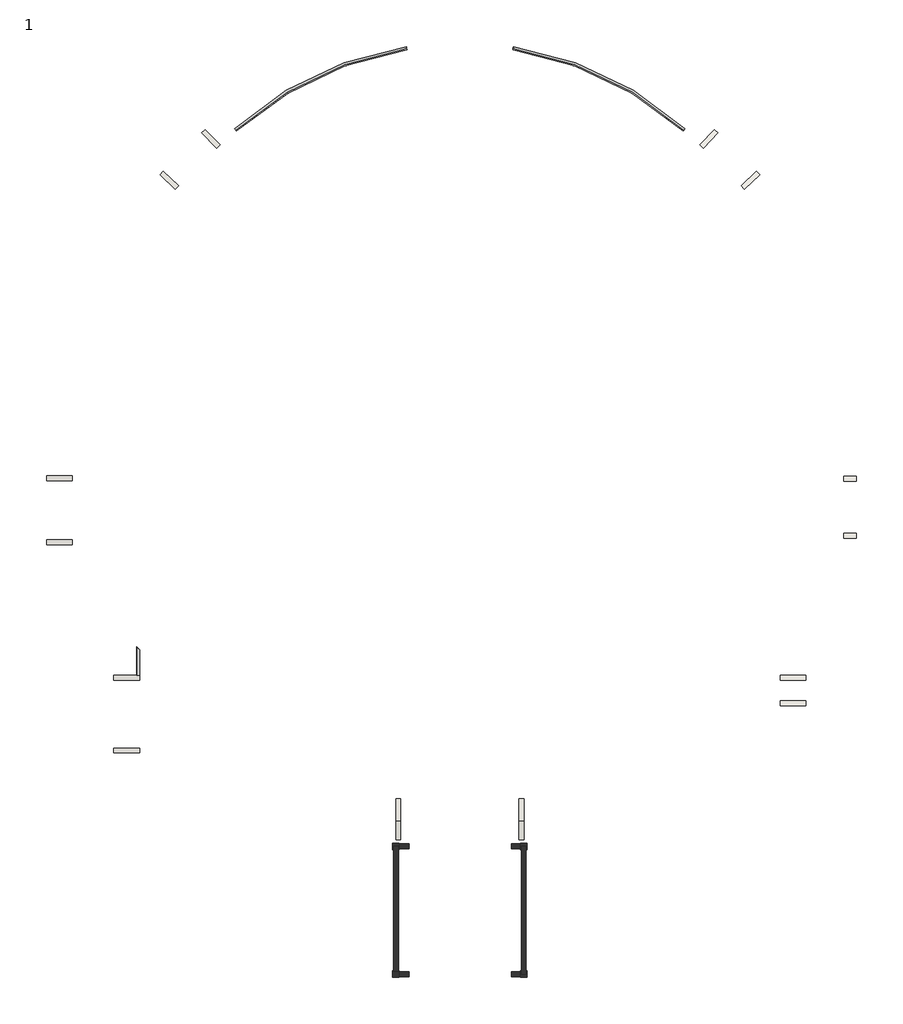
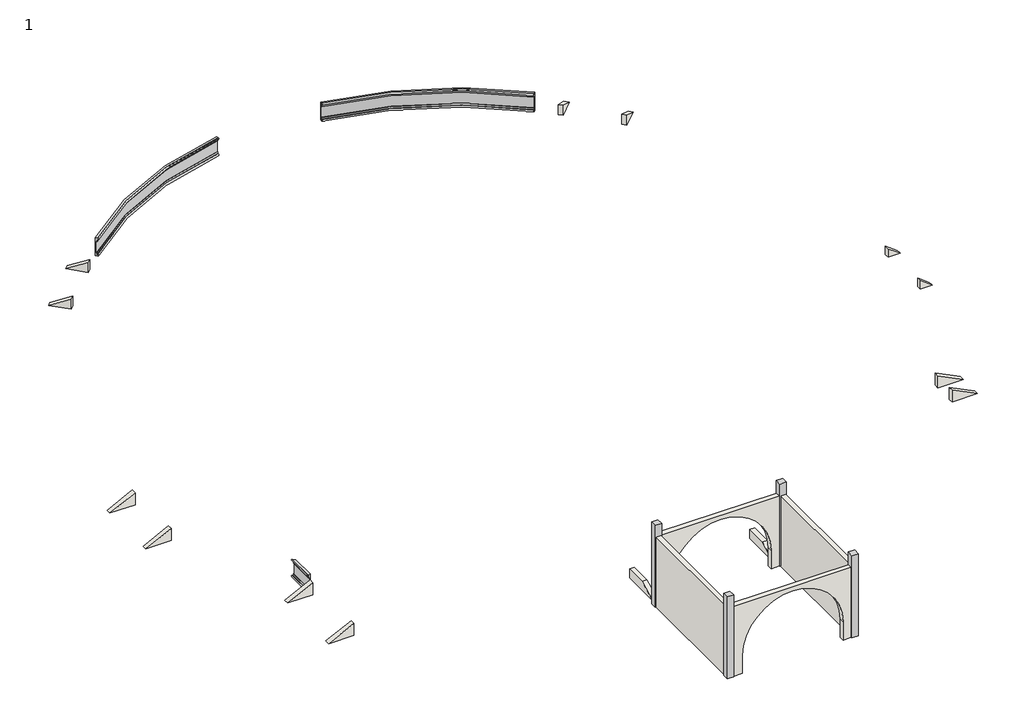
# One storey, incomplete: 19 walls, 4 columns, 2 proxies.
"""IFC4 building model written with IfcOpenShell, lengths in millimetres."""

from ifc_helpers import new_model, si_unit, point, frame, frame_2d, origin, place, context, project, spatial, polyline, circle_curve, ellipse_curve, trimmed, segment, composite_curve, outline, extrude, transform, mapped, element, save
from ifc_brep_helpers import plane_surface, cylinder_surface, revolved_surface, advanced_brep
from components import m_concrete_rectangular_column_c1_b98a9e01

model = new_model("IFC4")

# Units and contexts
model_context = context("Model", 3, world=origin())
ifc_project = project(units=[si_unit("LENGTHUNIT", "METRE", prefix="MILLI")], contexts=[model_context])

# Site, building, storey
site = spatial("IfcSite", under=ifc_project)
building = spatial("IfcBuilding", under=site)
storey = spatial("IfcBuildingStorey", under=building, Name="1", Elevation=-609.6)

# Proxies
placement = place(None, origin())
element("IfcBuildingElementProxy", 1, Name="moulding 2", ObjectType="moulding 2", at=placement, inside=storey, context=model_context, shape_type="AdvancedBrep", body=[
    advanced_brep(
    [(-23577.9608197, -8547.6193311, 304.8), (-23476.3608197, -8649.2193311, 304.8), (-23476.3608197, -8649.2193311, -609.6), (-23577.9608197, -8547.6193311, -609.6), (-23577.9608197, -8547.6193311, -527.05), (-23552.5608197, -8573.0193311, -527.05), (-23552.5608197, -8573.0193311, -438.15), (-23527.1608197, -8598.4193311, -438.15), (-23527.1608197, -8598.4193311, 127.0), (-23561.4018803, -8564.1782706, 127.0), (-23552.5608197, -8573.0193311, 222.25), (-23577.9608197, -8547.6193311, 222.25), (-23577.9608197, -9848.5681763, 304.8), (-23577.9608197, -9848.5681763, 222.25), (-23552.5608197, -9848.5681763, 222.25), (-23561.4018803, -9848.5681763, 127.0), (-23527.1608197, -9848.5681763, 127.0), (-23527.1608197, -9848.5681763, -438.15), (-23552.5608197, -9848.5681763, -438.15), (-23552.5608197, -9848.5681763, -527.05), (-23577.9608197, -9848.5681763, -527.05), (-23577.9608197, -9848.5681763, -609.6), (-23476.3608197, -9848.5681763, -609.6), (-23476.3608197, -9848.5681763, 304.8)],
    [
        (0, 1),
        (1, 2),
        (2, 3),
        (3, 4, ellipse_curve(frame((-23577.9608197, -8547.6193311, -568.325), z_axis=(0.7071067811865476, 0.7071067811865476, 0.0), x_axis=(-0.7071067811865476, 0.7071067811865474, 0.0)), 58.3716648, 41.275)),
        (4, 5),
        (5, 6, ellipse_curve(frame((-23591.1875121, -8534.3926387, -482.6), z_axis=(-0.7071067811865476, -0.7071067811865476, 0.0), x_axis=(0.7071067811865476, -0.7071067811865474, 0.0)), 83.2805363, 58.888232)),
        (6, 7),
        (7, 8),
        (8, 9),
        (9, 10, ellipse_curve(frame((-23591.1875121, -8534.3926387, 177.8), z_axis=(-0.7071067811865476, -0.7071067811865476, 0.0), x_axis=(0.7071067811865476, -0.7071067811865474, 0.0)), 83.2805363, 58.888232)),
        (10, 11),
        (11, 0, ellipse_curve(frame((-23577.9608197, -8547.6193311, 263.525), z_axis=(0.7071067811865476, 0.7071067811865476, 0.0), x_axis=(-0.7071067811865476, 0.7071067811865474, 0.0)), 58.3716648, 41.275)),
        (12, 13, circle_curve(frame((-23577.9608197, -9848.5681763, 263.525), z_axis=(0.0, -1.0, 0.0), x_axis=(-1.0, 0.0, 0.0)), 41.275)),
        (13, 14),
        (14, 15, circle_curve(frame((-23591.1875121, -9848.5681763, 177.8), z_axis=(0.0, 1.0, 0.0), x_axis=(-1.0, 0.0, 0.0)), 58.888232)),
        (15, 16),
        (16, 17),
        (17, 18),
        (18, 19, circle_curve(frame((-23591.1875121, -9848.5681763, -482.6), z_axis=(0.0, 1.0, 0.0), x_axis=(-1.0, 0.0, 0.0)), 58.888232)),
        (19, 20),
        (20, 21, circle_curve(frame((-23577.9608197, -9848.5681763, -568.325), z_axis=(0.0, -1.0, 0.0), x_axis=(-1.0, 0.0, 0.0)), 41.275)),
        (21, 22),
        (22, 23),
        (23, 12),
        (0, 12),
        (23, 1),
        (22, 2),
        (21, 3),
        (20, 4),
        (19, 5),
        (18, 6),
        (17, 7),
        (16, 8),
        (15, 9),
        (14, 10),
        (13, 11),
    ],
    [
        plane_surface(frame((-23476.3608197, -8649.2193311, -609.6), z_axis=(0.7071067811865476, 0.7071067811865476, 0.0), x_axis=(-0.7071067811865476, 0.7071067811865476, 0.0))),
        plane_surface(frame((-24396.3879498, -9848.5681763, -609.6), z_axis=(0.0, -1.0, 0.0), x_axis=(0.0, 0.0, -1.0))),
        plane_surface(frame((-23577.9608197, -8547.6193311, 304.8), z_axis=(0.0, 0.0, 1.0), x_axis=(0.0, -1.0, 0.0))),
        plane_surface(frame((-23476.3608197, -8649.2193311, 304.8), z_axis=(1.0, 0.0, 0.0), x_axis=(0.0, -1.0, 0.0))),
        plane_surface(frame((-23476.3608197, -8649.2193311, -609.6), z_axis=(0.0, 0.0, -1.0), x_axis=(0.0, -1.0, 0.0))),
        cylinder_surface(frame((-23577.9608197, -8649.2193311, -568.325), z_axis=(0.0, 1.0, 0.0), x_axis=(-1.0, 0.0, 0.0)), 41.275),
        plane_surface(frame((-23577.9608197, -8547.6193311, -527.05), z_axis=(0.0, 0.0, 1.0), x_axis=(0.0, -1.0, 0.0))),
        revolved_surface(polyline([(-23650.075744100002, -9848.5681763, -482.6), (-23650.075744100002, -8475.504406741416, -482.6)]), (-23591.1875121, -8649.2193311, -482.6), (0.0, -1.0, 0.0)),
        plane_surface(frame((-23552.5608197, -8573.0193311, -438.15), z_axis=(0.0, 0.0, 1.0), x_axis=(0.0, -1.0, 0.0))),
        plane_surface(frame((-23527.1608197, -8598.4193311, -438.15), z_axis=(-1.0, 0.0, 0.0), x_axis=(0.0, -1.0, 0.0))),
        plane_surface(frame((-23527.1608197, -8598.4193311, 127.0), z_axis=(0.0, 0.0, -1.0), x_axis=(0.0, -1.0, 0.0))),
        revolved_surface(polyline([(-23650.075744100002, -9848.5681763, 177.8), (-23650.075744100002, -8475.504406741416, 177.8)]), (-23591.1875121, -8649.2193311, 177.8), (0.0, -1.0, 0.0)),
        plane_surface(frame((-23552.5608197, -8573.0193311, 222.25), z_axis=(0.0, 0.0, -1.0), x_axis=(0.0, -1.0, 0.0))),
        cylinder_surface(frame((-23577.9608197, -8649.2193311, 263.525), z_axis=(0.0, 1.0, 0.0), x_axis=(-1.0, 0.0, 0.0)), 41.275),
    ],
    [
        (0, [[1, 2, 3, 4, 5, 6, 7, 8, 9, 10, 11, 12]]),
        (1, [[13, 14, 15, 16, 17, 18, 19, 20, 21, 22, 23, 24]]),
        (2, [[-1, 25, -24, 26]]),
        (3, [[-2, -26, -23, 27]]),
        (4, [[-3, -27, -22, 28]]),
        (5, [[-4, -28, -21, 29]]),
        (6, [[-5, -29, -20, 30]]),
        (7, [[-6, -30, -19, 31]]),
        (8, [[-7, -31, -18, 32]]),
        (9, [[-8, -32, -17, 33]]),
        (10, [[-9, -33, -16, 34]]),
        (11, [[-10, -34, -15, 35]]),
        (12, [[-11, -35, -14, 36]]),
        (13, [[-12, -36, -13, -25]]),
    ],
),
])
element("IfcBuildingElementProxy", 2, Name="moulding 2", ObjectType="moulding 2", at=placement, inside=storey, context=model_context, shape_type="AdvancedBrep", body=[
    advanced_brep(
    [(2148.3467022, 15805.0626421, 304.8), (2148.3467022, 15805.0626421, 222.25), (2165.3278666, 15823.9517939, 222.25), (2159.4171775, 15817.3769854, 127.0), (2182.309031, 15842.8409456, 127.0), (2182.309031, 15842.8409456, -438.15), (2165.3278666, 15823.9517939, -438.15), (2165.3278666, 15823.9517939, -527.05), (2148.3467022, 15805.0626421, -527.05), (2148.3467022, 15805.0626421, -609.6), (2216.2713599, 15880.6192492, -609.6), (2216.2713599, 15880.6192492, 304.8), (-5888.6839786, 19645.7260125, 304.8), (-5872.5655256, 19746.0392991, 304.8), (-5872.5655256, 19746.0392991, -609.6), (-5888.6839786, 19645.7260125, -609.6), (-5888.6839786, 19645.7260125, -527.05), (-5884.6543653, 19670.8043341, -527.05), (-5884.6543653, 19670.8043341, -438.15), (-5880.6247521, 19695.8826558, -438.15), (-5880.6247521, 19695.8826558, 127.0), (-5886.0569659, 19662.0752412, 127.0), (-5884.6543653, 19670.8043341, 222.25), (-5888.6839786, 19645.7260125, 222.25)],
    [
        (0, 1, circle_curve(frame((2148.3467022, 15805.0626421, 263.525), z_axis=(0.7436673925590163, -0.6685497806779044, 0.0), x_axis=(-0.6685497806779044, -0.7436673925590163, 0.0)), 41.275)),
        (1, 2),
        (2, 3, circle_curve(frame((2139.5039999, 15795.2263823, 177.8), z_axis=(-0.7436673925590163, 0.6685497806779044, 0.0), x_axis=(-0.6685497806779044, -0.7436673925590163, 0.0)), 58.888232)),
        (3, 4),
        (4, 5),
        (5, 6),
        (6, 7, circle_curve(frame((2139.5039999, 15795.2263823, -482.6), z_axis=(-0.7436673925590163, 0.6685497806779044, 0.0), x_axis=(-0.6685497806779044, -0.7436673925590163, 0.0)), 58.888232)),
        (7, 8),
        (8, 9, circle_curve(frame((2148.3467022, 15805.0626421, -568.325), z_axis=(0.7436673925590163, -0.6685497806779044, 0.0), x_axis=(-0.6685497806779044, -0.7436673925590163, 0.0)), 41.275)),
        (9, 10),
        (10, 11),
        (11, 0),
        (12, 13),
        (13, 14),
        (14, 15),
        (15, 16, circle_curve(frame((-5888.6839786, 19645.7260125, -568.325), z_axis=(-0.9873354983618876, 0.1586461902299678, 0.0), x_axis=(-0.1586461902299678, -0.9873354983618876, 0.0)), 41.275)),
        (16, 17),
        (17, 18, circle_curve(frame((-5890.7823429, 19632.6668296, -482.6), z_axis=(0.9873354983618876, -0.1586461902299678, 0.0), x_axis=(-0.1586461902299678, -0.9873354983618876, 0.0)), 58.888232)),
        (18, 19),
        (19, 20),
        (20, 21),
        (21, 22, circle_curve(frame((-5890.7823429, 19632.6668296, 177.8), z_axis=(0.9873354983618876, -0.1586461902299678, 0.0), x_axis=(-0.1586461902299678, -0.9873354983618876, 0.0)), 58.888232)),
        (22, 23),
        (23, 12, circle_curve(frame((-5888.6839786, 19645.7260125, 263.525), z_axis=(-0.9873354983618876, 0.1586461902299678, 0.0), x_axis=(-0.1586461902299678, -0.9873354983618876, 0.0)), 41.275)),
        (23, 1, circle_curve(frame((-8389.2435395, 4083.4788717, 222.25), z_axis=(0.0, 0.0, -1.0), x_axis=(0.6685497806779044, 0.7436673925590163, 0.0)), 15761.8632842)),
        (0, 12, circle_curve(frame((-8389.2435395, 4083.4788717, 304.8), z_axis=(0.0, 0.0, 1.0), x_axis=(0.6685497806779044, 0.7436673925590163, 0.0)), 15761.8632842)),
        (22, 2, circle_curve(frame((-8389.2435395, 4083.4788717, 222.25), z_axis=(0.0, 0.0, -1.0), x_axis=(0.6685497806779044, 0.7436673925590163, 0.0)), 15787.2632842)),
        (21, 3, circle_curve(frame((-8389.2435395, 4083.4788717, 127.0), z_axis=(0.0, 0.0, -1.0), x_axis=(0.6685497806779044, 0.7436673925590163, 0.0)), 15778.4222237)),
        (20, 4, circle_curve(frame((-8389.2435395, 4083.4788717, 127.0), z_axis=(0.0, 0.0, -1.0), x_axis=(0.6685497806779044, 0.7436673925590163, 0.0)), 15812.6632842)),
        (19, 5, circle_curve(frame((-8389.2435395, 4083.4788717, -438.15), z_axis=(0.0, 0.0, -1.0), x_axis=(0.6685497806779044, 0.7436673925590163, 0.0)), 15812.6632842)),
        (18, 6, circle_curve(frame((-8389.2435395, 4083.4788717, -438.15), z_axis=(0.0, 0.0, -1.0), x_axis=(0.6685497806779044, 0.7436673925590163, 0.0)), 15787.2632842)),
        (17, 7, circle_curve(frame((-8389.2435395, 4083.4788717, -527.05), z_axis=(0.0, 0.0, -1.0), x_axis=(0.6685497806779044, 0.7436673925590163, 0.0)), 15787.2632842)),
        (16, 8, circle_curve(frame((-8389.2435395, 4083.4788717, -527.05), z_axis=(0.0, 0.0, -1.0), x_axis=(0.6685497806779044, 0.7436673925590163, 0.0)), 15761.8632842)),
        (15, 9, circle_curve(frame((-8389.2435395, 4083.4788717, -609.6), z_axis=(0.0, 0.0, -1.0), x_axis=(0.6685497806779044, 0.7436673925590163, 0.0)), 15761.8632842)),
        (14, 10, circle_curve(frame((-8389.2435395, 4083.4788717, -609.6), z_axis=(0.0, 0.0, -1.0), x_axis=(0.6685497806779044, 0.7436673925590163, 0.0)), 15863.4632842)),
        (13, 11, circle_curve(frame((-8389.2435395, 4083.4788717, 304.8), z_axis=(0.0, 0.0, -1.0), x_axis=(0.6685497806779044, 0.7436673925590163, 0.0)), 15863.4632842)),
    ],
    [
        plane_surface(frame((-8389.2435395, 4083.4788717, -609.6), z_axis=(0.7436673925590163, -0.6685497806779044, 0.0), x_axis=(0.6685497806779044, 0.7436673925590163, 0.0))),
        plane_surface(frame((-8389.2435395, 4083.4788717, -609.6), z_axis=(-0.9873354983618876, 0.1586461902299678, 0.0), x_axis=(0.1586461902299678, 0.9873354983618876, 0.0))),
        revolved_surface(trimmed(ellipse_curve(frame((2148.3467022, 15805.0626421, 263.525), z_axis=(0.7436673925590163, -0.6685497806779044, 0.0), x_axis=(-0.6685497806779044, -0.7436673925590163, 0.0)), 41.275, 41.275), [point((2148.3467022, 15805.0626421, 304.8))], [point((2148.3467022, 15805.0626421, 222.25))], True, "CARTESIAN"), (-8389.2435395, 4083.4788717, -609.6), (0.0, 0.0, 1.0)),
        plane_surface(frame((-8389.2435395, 4083.4788717, 222.25), z_axis=(0.0, 0.0, -1.0), x_axis=(0.6685497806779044, 0.7436673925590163, 0.0))),
        revolved_surface(trimmed(ellipse_curve(frame((2139.5039999, 15795.2263823, 177.8), z_axis=(-0.7436673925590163, 0.6685497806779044, 0.0), x_axis=(-0.6685497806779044, -0.7436673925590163, 0.0)), 58.888232, 58.888232), [point((2165.3278666, 15823.9517939, 222.25))], [point((2159.4171775, 15817.3769854, 127.0))], True, "CARTESIAN"), (-8389.2435395, 4083.4788717, -609.6), (0.0, 0.0, 1.0)),
        plane_surface(frame((-8389.2435395, 4083.4788717, 127.0), z_axis=(0.0, 0.0, -1.0), x_axis=(0.6685497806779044, 0.7436673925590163, 0.0))),
        revolved_surface(polyline([(2182.3090310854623, 15842.840945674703, 127.0), (2182.3090310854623, 15842.840945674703, -438.15)]), (-8389.2435395, 4083.4788717, -609.6), (0.0, 0.0, 1.0)),
        plane_surface(frame((-8389.2435395, 4083.4788717, -438.15), z_axis=(0.0, 0.0, 1.0), x_axis=(0.6685497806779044, 0.7436673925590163, 0.0))),
        revolved_surface(trimmed(ellipse_curve(frame((2139.5039999, 15795.2263823, -482.6), z_axis=(-0.7436673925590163, 0.6685497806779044, 0.0), x_axis=(-0.6685497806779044, -0.7436673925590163, 0.0)), 58.888232, 58.888232), [point((2165.3278666, 15823.9517939, -438.15))], [point((2165.3278666, 15823.9517939, -527.05))], True, "CARTESIAN"), (-8389.2435395, 4083.4788717, -609.6), (0.0, 0.0, 1.0)),
        plane_surface(frame((-8389.2435395, 4083.4788717, -527.05), z_axis=(0.0, 0.0, 1.0), x_axis=(0.6685497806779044, 0.7436673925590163, 0.0))),
        revolved_surface(trimmed(ellipse_curve(frame((2148.3467022, 15805.0626421, -568.325), z_axis=(0.7436673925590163, -0.6685497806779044, 0.0), x_axis=(-0.6685497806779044, -0.7436673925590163, 0.0)), 41.275, 41.275), [point((2148.3467022, 15805.0626421, -527.05))], [point((2148.3467022, 15805.0626421, -609.6))], True, "CARTESIAN"), (-8389.2435395, 4083.4788717, -609.6), (0.0, 0.0, 1.0)),
        plane_surface(frame((-8389.2435395, 4083.4788717, -609.6), z_axis=(0.0, 0.0, -1.0), x_axis=(0.6685497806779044, 0.7436673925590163, 0.0))),
        cylinder_surface(frame((-8389.2435395, 4083.4788717, -609.6), z_axis=(0.0, 0.0, 1.0), x_axis=(0.6685497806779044, 0.7436673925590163, 0.0)), 15863.4632842),
        plane_surface(frame((-8389.2435395, 4083.4788717, 304.8), z_axis=(0.0, 0.0, 1.0), x_axis=(0.6685497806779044, 0.7436673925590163, 0.0))),
    ],
    [
        (0, [[1, 2, 3, 4, 5, 6, 7, 8, 9, 10, 11, 12]]),
        (1, [[13, 14, 15, 16, 17, 18, 19, 20, 21, 22, 23, 24]]),
        (2, [[25, -1, 26, -24]]),
        (3, [[27, -2, -25, -23]]),
        (4, [[28, -3, -27, -22]]),
        (5, [[29, -4, -28, -21]]),
        (6, [[30, -5, -29, -20]]),
        (7, [[31, -6, -30, -19]]),
        (8, [[32, -7, -31, -18]]),
        (9, [[33, -8, -32, -17]]),
        (10, [[34, -9, -33, -16]]),
        (11, [[35, -10, -34, -15]]),
        (12, [[36, -11, -35, -14]]),
        (13, [[-26, -12, -36, -13]]),
    ],
),
    advanced_brep(
    [(-10889.7422975, 19645.7357823, 304.8), (-10889.7422975, 19645.7357823, 222.25), (-10893.7718128, 19670.8141197, 222.25), (-10892.3692463, 19662.0850213, 127.0), (-10897.801328, 19695.8924571, 127.0), (-10897.801328, 19695.8924571, -438.15), (-10893.7718128, 19670.8141197, -438.15), (-10893.7718128, 19670.8141197, -527.05), (-10889.7422975, 19645.7357823, -527.05), (-10889.7422975, 19645.7357823, -609.6), (-10905.8603585, 19746.0491319, -609.6), (-10905.8603585, 19746.0491319, 304.8), (-18926.8337812, 15805.0626421, 304.8), (-18994.758439, 15880.6192492, 304.8), (-18994.758439, 15880.6192492, -609.6), (-18926.8337812, 15805.0626421, -609.6), (-18926.8337812, 15805.0626421, -527.05), (-18943.8149457, 15823.9517939, -527.05), (-18943.8149457, 15823.9517939, -438.15), (-18960.7961101, 15842.8409456, -438.15), (-18960.7961101, 15842.8409456, 127.0), (-18937.9042566, 15817.3769854, 127.0), (-18943.8149457, 15823.9517939, 222.25), (-18926.8337812, 15805.0626421, 222.25)],
    [
        (0, 1, circle_curve(frame((-10889.7422975, 19645.7357823, 263.525), z_axis=(0.9873361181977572, 0.15864233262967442, 0.0), x_axis=(0.15864233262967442, -0.9873361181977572, 0.0)), 41.275)),
        (1, 2),
        (2, 3, circle_curve(frame((-10887.6439842, 19632.6765911, 177.8), z_axis=(-0.9873361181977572, -0.15864233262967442, 0.0), x_axis=(0.15864233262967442, -0.9873361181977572, 0.0)), 58.888232)),
        (3, 4),
        (4, 5),
        (5, 6),
        (6, 7, circle_curve(frame((-10887.6439842, 19632.6765911, -482.6), z_axis=(-0.9873361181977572, -0.15864233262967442, 0.0), x_axis=(0.15864233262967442, -0.9873361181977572, 0.0)), 58.888232)),
        (7, 8),
        (8, 9, circle_curve(frame((-10889.7422975, 19645.7357823, -568.325), z_axis=(0.9873361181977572, 0.15864233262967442, 0.0), x_axis=(0.15864233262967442, -0.9873361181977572, 0.0)), 41.275)),
        (9, 10),
        (10, 11),
        (11, 0),
        (12, 13),
        (13, 14),
        (14, 15),
        (15, 16, circle_curve(frame((-18926.8337812, 15805.0626421, -568.325), z_axis=(-0.7436673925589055, -0.6685497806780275, 0.0), x_axis=(0.6685497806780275, -0.7436673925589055, 0.0)), 41.275)),
        (16, 17),
        (17, 18, circle_curve(frame((-18917.991079, 15795.2263823, -482.6), z_axis=(0.7436673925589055, 0.6685497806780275, 0.0), x_axis=(0.6685497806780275, -0.7436673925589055, 0.0)), 58.888232)),
        (18, 19),
        (19, 20),
        (20, 21),
        (21, 22, circle_curve(frame((-18917.991079, 15795.2263823, 177.8), z_axis=(0.7436673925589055, 0.6685497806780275, 0.0), x_axis=(0.6685497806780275, -0.7436673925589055, 0.0)), 58.888232)),
        (22, 23),
        (23, 12, circle_curve(frame((-18926.8337812, 15805.0626421, 263.525), z_axis=(-0.7436673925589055, -0.6685497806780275, 0.0), x_axis=(0.6685497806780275, -0.7436673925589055, 0.0)), 41.275)),
        (23, 1, circle_curve(frame((-8389.2435395, 4083.4788717, 222.25), z_axis=(0.0, 0.0, -1.0), x_axis=(-0.1586423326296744, 0.9873361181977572, 0.0)), 15761.8632842)),
        (0, 12, circle_curve(frame((-8389.2435395, 4083.4788717, 304.8), z_axis=(0.0, 0.0, 1.0), x_axis=(-0.1586423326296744, 0.9873361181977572, 0.0)), 15761.8632842)),
        (22, 2, circle_curve(frame((-8389.2435395, 4083.4788717, 222.25), z_axis=(0.0, 0.0, -1.0), x_axis=(-0.1586423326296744, 0.9873361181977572, 0.0)), 15787.2632842)),
        (21, 3, circle_curve(frame((-8389.2435395, 4083.4788717, 127.0), z_axis=(0.0, 0.0, -1.0), x_axis=(-0.1586423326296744, 0.9873361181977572, 0.0)), 15778.4222237)),
        (20, 4, circle_curve(frame((-8389.2435395, 4083.4788717, 127.0), z_axis=(0.0, 0.0, -1.0), x_axis=(-0.1586423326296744, 0.9873361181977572, 0.0)), 15812.6632842)),
        (19, 5, circle_curve(frame((-8389.2435395, 4083.4788717, -438.15), z_axis=(0.0, 0.0, -1.0), x_axis=(-0.1586423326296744, 0.9873361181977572, 0.0)), 15812.6632842)),
        (18, 6, circle_curve(frame((-8389.2435395, 4083.4788717, -438.15), z_axis=(0.0, 0.0, -1.0), x_axis=(-0.1586423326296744, 0.9873361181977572, 0.0)), 15787.2632842)),
        (17, 7, circle_curve(frame((-8389.2435395, 4083.4788717, -527.05), z_axis=(0.0, 0.0, -1.0), x_axis=(-0.1586423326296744, 0.9873361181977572, 0.0)), 15787.2632842)),
        (16, 8, circle_curve(frame((-8389.2435395, 4083.4788717, -527.05), z_axis=(0.0, 0.0, -1.0), x_axis=(-0.1586423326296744, 0.9873361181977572, 0.0)), 15761.8632842)),
        (15, 9, circle_curve(frame((-8389.2435395, 4083.4788717, -609.6), z_axis=(0.0, 0.0, -1.0), x_axis=(-0.1586423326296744, 0.9873361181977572, 0.0)), 15761.8632842)),
        (14, 10, circle_curve(frame((-8389.2435395, 4083.4788717, -609.6), z_axis=(0.0, 0.0, -1.0), x_axis=(-0.1586423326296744, 0.9873361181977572, 0.0)), 15863.4632842)),
        (13, 11, circle_curve(frame((-8389.2435395, 4083.4788717, 304.8), z_axis=(0.0, 0.0, -1.0), x_axis=(-0.1586423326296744, 0.9873361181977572, 0.0)), 15863.4632842)),
    ],
    [
        plane_surface(frame((-8389.2435395, 4083.4788717, -609.6), z_axis=(0.9873361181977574, 0.15864233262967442, 0.0), x_axis=(-0.15864233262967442, 0.9873361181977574, 0.0))),
        plane_surface(frame((-8389.2435395, 4083.4788717, -609.6), z_axis=(-0.7436673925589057, -0.6685497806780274, 0.0), x_axis=(-0.6685497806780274, 0.7436673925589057, 0.0))),
        revolved_surface(trimmed(ellipse_curve(frame((-10889.7422975, 19645.7357823, 263.525), z_axis=(0.9873361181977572, 0.15864233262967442, 0.0), x_axis=(0.15864233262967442, -0.9873361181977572, 0.0)), 41.275, 41.275), [point((-10889.7422975, 19645.7357823, 304.8))], [point((-10889.7422975, 19645.7357823, 222.25))], True, "CARTESIAN"), (-8389.2435395, 4083.4788717, -609.6), (0.0, 0.0, 1.0)),
        plane_surface(frame((-8389.2435395, 4083.4788717, 222.25), z_axis=(0.0, 0.0, -1.0000000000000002), x_axis=(-0.15864233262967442, 0.9873361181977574, 0.0))),
        revolved_surface(trimmed(ellipse_curve(frame((-10887.6439842, 19632.6765911, 177.8), z_axis=(-0.9873361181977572, -0.15864233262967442, 0.0), x_axis=(0.15864233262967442, -0.9873361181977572, 0.0)), 58.888232, 58.888232), [point((-10893.7718128, 19670.8141197, 222.25))], [point((-10892.3692463, 19662.0850213, 127.0))], True, "CARTESIAN"), (-8389.2435395, 4083.4788717, -609.6), (0.0, 0.0, 1.0)),
        plane_surface(frame((-8389.2435395, 4083.4788717, 127.0), z_axis=(0.0, 0.0, -1.0000000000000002), x_axis=(-0.15864233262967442, 0.9873361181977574, 0.0))),
        revolved_surface(polyline([(-10897.801327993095, 19695.892457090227, 127.0), (-10897.801327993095, 19695.892457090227, -438.15)]), (-8389.2435395, 4083.4788717, -609.6), (0.0, 0.0, 1.0)),
        plane_surface(frame((-8389.2435395, 4083.4788717, -438.15), z_axis=(0.0, 0.0, 1.0000000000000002), x_axis=(-0.15864233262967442, 0.9873361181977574, 0.0))),
        revolved_surface(trimmed(ellipse_curve(frame((-10887.6439842, 19632.6765911, -482.6), z_axis=(-0.9873361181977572, -0.15864233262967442, 0.0), x_axis=(0.15864233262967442, -0.9873361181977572, 0.0)), 58.888232, 58.888232), [point((-10893.7718128, 19670.8141197, -438.15))], [point((-10893.7718128, 19670.8141197, -527.05))], True, "CARTESIAN"), (-8389.2435395, 4083.4788717, -609.6), (0.0, 0.0, 1.0)),
        plane_surface(frame((-8389.2435395, 4083.4788717, -527.05), z_axis=(0.0, 0.0, 1.0000000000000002), x_axis=(-0.15864233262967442, 0.9873361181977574, 0.0))),
        revolved_surface(trimmed(ellipse_curve(frame((-10889.7422975, 19645.7357823, -568.325), z_axis=(0.9873361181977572, 0.15864233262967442, 0.0), x_axis=(0.15864233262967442, -0.9873361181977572, 0.0)), 41.275, 41.275), [point((-10889.7422975, 19645.7357823, -527.05))], [point((-10889.7422975, 19645.7357823, -609.6))], True, "CARTESIAN"), (-8389.2435395, 4083.4788717, -609.6), (0.0, 0.0, 1.0)),
        plane_surface(frame((-8389.2435395, 4083.4788717, -609.6), z_axis=(0.0, 0.0, -1.0000000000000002), x_axis=(-0.15864233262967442, 0.9873361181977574, 0.0))),
        cylinder_surface(frame((-8389.2435395, 4083.4788717, -609.6), z_axis=(0.0, 0.0, 1.0), x_axis=(-0.1586423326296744, 0.9873361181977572, 0.0)), 15863.4632842),
        plane_surface(frame((-8389.2435395, 4083.4788717, 304.8), z_axis=(0.0, 0.0, 1.0000000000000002), x_axis=(-0.15864233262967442, 0.9873361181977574, 0.0))),
    ],
    [
        (0, [[1, 2, 3, 4, 5, 6, 7, 8, 9, 10, 11, 12]]),
        (1, [[13, 14, 15, 16, 17, 18, 19, 20, 21, 22, 23, 24]]),
        (2, [[25, -1, 26, -24]]),
        (3, [[27, -2, -25, -23]]),
        (4, [[28, -3, -27, -22]]),
        (5, [[29, -4, -28, -21]]),
        (6, [[30, -5, -29, -20]]),
        (7, [[31, -6, -30, -19]]),
        (8, [[32, -7, -31, -18]]),
        (9, [[33, -8, -32, -17]]),
        (10, [[34, -9, -33, -16]]),
        (11, [[35, -10, -34, -15]]),
        (12, [[36, -11, -35, -14]]),
        (13, [[-26, -12, -36, -13]]),
    ],
),
])

# Columns
element("IfcColumn", 3, ObjectType="M_Concrete-Rectangular-Column : c1", at=placement, inside=storey, context=model_context, shape_type="SweptSolid", body=[
    extrude(outline(polyline([(-11246.0950906, -23774.9193311), (-11246.0950906, -24079.7193311), (-11550.8950906, -24079.7193311), (-11550.8950906, -23774.9193311), (-11246.0950906, -23774.9193311)])), frame((0.0, 0.0, -609.6), z_axis=(0.0, 0.0, 1.0), x_axis=(1.0, 0.0, 0.0)), (0.0, 0.0, 1.0), 4191.0),
])
element("IfcColumn", 4, ObjectType="M_Concrete-Rectangular-Column : c1", at=placement, inside=storey, context=model_context, shape_type="SweptSolid", body=[
    extrude(outline(polyline([(-5226.2950906, -23774.9193311), (-5226.2950906, -24079.7193311), (-5531.0950906, -24079.7193311), (-5531.0950906, -23774.9193311), (-5226.2950906, -23774.9193311)])), frame((0.0, 0.0, -609.6), z_axis=(0.0, 0.0, 1.0), x_axis=(1.0, 0.0, 0.0)), (0.0, 0.0, 1.0), 4191.0),
])
m_concrete_rectangular_column_c1_shape = m_concrete_rectangular_column_c1_b98a9e01(model_context)
element("IfcColumn", 5, ObjectType="M_Concrete-Rectangular-Column : c1", at=placement, inside=storey, context=model_context, shape_type="MappedRepresentation", body=[
    mapped(m_concrete_rectangular_column_c1_shape, transform((-11398.4950906, -17907.5193311, 0.0), x_axis=(1.0, 0.0, 0.0), y_axis=(0.0, 1.0, 0.0), z_axis=(0.0, 0.0, 1.0))),
])
element("IfcColumn", 6, ObjectType="M_Concrete-Rectangular-Column : c1", at=placement, inside=storey, context=model_context, shape_type="MappedRepresentation", body=[
    mapped(m_concrete_rectangular_column_c1_shape, transform((-5378.6950906, -17907.5193311, 0.0), x_axis=(1.0, 0.0, 0.0), y_axis=(0.0, 1.0, 0.0), z_axis=(0.0, 0.0, 1.0))),
])

# Walls
element("IfcWall", 7, ObjectType="230mm BK WALL 2", at=placement, inside=storey, context=model_context, shape_type="SweptSolid", body=[
    extrude(outline(polyline([(-11512.7950906, -23791.1270039), (-11512.7950906, -17907.5193311), (-11284.1950906, -17907.5193311), (-11284.1950906, -23791.1270039), (-11512.7950906, -23791.1270039)])), frame((0.0, 0.0, -609.6), z_axis=(0.0, 0.0, 1.0), x_axis=(1.0, 0.0, 0.0)), (0.0, 0.0, 1.0), 3581.4),
])
element("IfcWall", 8, ObjectType="230mm BK WALL 2", at=placement, inside=storey, context=model_context, shape_type="SweptSolid", body=[
    extrude(outline(polyline([(-5492.9950906, -23927.3193311), (-5492.9950906, -17907.5193311), (-5264.3950906, -17907.5193311), (-5264.3950906, -23927.3193311), (-5492.9950906, -23927.3193311)])), frame((0.0, 0.0, -609.6), z_axis=(0.0, 0.0, 1.0), x_axis=(1.0, 0.0, 0.0)), (0.0, 0.0, 1.0), 3581.4),
])
element("IfcWall", 9, ObjectType="230mm BK WALL 2", at=placement, inside=storey, context=model_context, shape_type="SweptSolid", body=[
    extrude(outline(composite_curve([segment(polyline([(-609.6, -11220.6950906), (-609.6, -10802.6165233), (316.3257047, -10802.6165233)]), True, "CONTINUOUS"), segment(trimmed(circle_curve(frame_2d((322.6674365, -8370.5665233)), 2432.0582682), [point((316.3257047, -10802.6165233))], [point((316.3257047, -5938.5165233))], True, "CARTESIAN"), True, "CONTINUOUS"), segment(polyline([(316.3257047, -5938.5165233), (-609.6, -5938.5165233), (-609.6, -5556.4950906), (2971.8, -5556.4950906), (2971.8, -11220.6950906), (-609.6, -11220.6950906)]), True, "CONTINUOUS")], self_intersect=False)), frame((0.0, -18021.8193311, 0.0), z_axis=(0.0, 1.0, 0.0), x_axis=(0.0, 0.0, 1.0)), (0.0, 0.0, 1.0), 228.6),
])
element("IfcWall", 10, ObjectType="230mm BK WALL 2", at=placement, inside=storey, context=model_context, shape_type="SweptSolid", body=[
    extrude(outline(composite_curve([segment(polyline([(-609.6, -11220.6950906), (-609.6, -10802.6165233), (316.3257047, -10802.6165233)]), True, "CONTINUOUS"), segment(trimmed(circle_curve(frame_2d((322.6674365, -8370.5665233)), 2432.0582682), [point((316.3257047, -10802.6165233))], [point((316.3257047, -5938.5165233))], True, "CARTESIAN"), True, "CONTINUOUS"), segment(polyline([(316.3257047, -5938.5165233), (-609.6, -5938.5165233), (-609.6, -5556.4950906), (2971.8, -5556.4950906), (2971.8, -11220.6950906), (-609.6, -11220.6950906)]), True, "CONTINUOUS")], self_intersect=False)), frame((0.0, -24041.6193311, 0.0), z_axis=(0.0, 1.0, 0.0), x_axis=(0.0, 0.0, 1.0)), (0.0, 0.0, 1.0), 228.6),
])
element("IfcWall", 11, ObjectType="PARAPET", at=placement, inside=storey, context=model_context, shape_type="SweptSolid", body=[
    extrude(outline(polyline([(-609.6, -23477.3495087), (0.0, -23477.3495087), (-609.6, -24696.5495087), (-609.6, -23477.3495087)])), frame((0.0, -10084.3193311, 0.0), z_axis=(0.0, 1.0, 0.0), x_axis=(0.0, 0.0, 1.0)), (0.0, 0.0, 1.0), 228.6),
])
element("IfcWall", 12, ObjectType="PARAPET", at=placement, inside=storey, context=model_context, shape_type="SweptSolid", body=[
    extrude(outline(polyline([(-609.6, -23477.3495087), (0.0, -23477.3495087), (-609.6, -24696.5495087), (-609.6, -23477.3495087)])), frame((0.0, -13506.9693311, 0.0), z_axis=(0.0, 1.0, 0.0), x_axis=(0.0, 0.0, 1.0)), (0.0, 0.0, 1.0), 228.6),
])
element("IfcWall", 13, ObjectType="PARAPET", at=placement, inside=storey, context=model_context, shape_type="SweptSolid", body=[
    extrude(outline(polyline([(-609.6, -26637.5780453), (0.0, -26637.5780453), (-609.6, -27856.7780453), (-609.6, -26637.5780453)])), frame((0.0, -685.5181763, 0.0), z_axis=(0.0, 1.0, 0.0), x_axis=(0.0, 0.0, 1.0)), (0.0, 0.0, 1.0), 228.6),
])
element("IfcWall", 14, ObjectType="PARAPET", at=placement, inside=storey, context=model_context, shape_type="SweptSolid", body=[
    extrude(outline(polyline([(-609.6, -26637.5780453), (0.0, -26637.5780453), (-609.6, -27856.7780453), (-609.6, -26637.5780453)])), frame((0.0, -3701.7681763, 0.0), z_axis=(0.0, 1.0, 0.0), x_axis=(0.0, 0.0, 1.0)), (0.0, 0.0, 1.0), 228.6),
])
element("IfcWall", 15, ObjectType="PARAPET", at=placement, inside=storey, context=model_context, shape_type="SweptSolid", body=[
    extrude(outline(polyline([(-15658.4416116, -609.6), (-17591.7505668, -609.6), (-16702.7505668, -152.4), (-15658.4416116, -152.4), (-15658.4416116, -609.6)])), frame((-11402.557113, 0.0, 0.0), z_axis=(1.0, 0.0, 0.0), x_axis=(0.0, 1.0, 0.0)), (0.0, 0.0, 1.0), 228.6),
])
element("IfcWall", 16, ObjectType="PARAPET", at=placement, inside=storey, context=model_context, shape_type="SweptSolid", body=[
    extrude(outline(polyline([(-609.6, 6700.1593276), (-609.6, 7919.3593276), (0.0, 6700.1593276), (-609.6, 6700.1593276)])), frame((0.0, -10084.3193311, 0.0), z_axis=(0.0, 1.0, 0.0), x_axis=(0.0, 0.0, 1.0)), (0.0, 0.0, 1.0), 228.6),
])
element("IfcWall", 17, ObjectType="PARAPET", at=placement, inside=storey, context=model_context, shape_type="SweptSolid", body=[
    extrude(outline(polyline([(-15658.4416116, -609.6), (-17591.7505668, -609.6), (-16702.7505668, -152.4), (-15658.4416116, -152.4), (-15658.4416116, -609.6)])), frame((-5603.2330681, 0.0, 0.0), z_axis=(1.0, 0.0, 0.0), x_axis=(0.0, 1.0, 0.0)), (0.0, 0.0, 1.0), 228.6),
])
element("IfcWall", 18, ObjectType="PARAPET", at=placement, inside=storey, context=model_context, shape_type="SweptSolid", body=[
    extrude(outline(polyline([(-609.6, 6700.1593276), (-609.6, 7919.3593276), (0.0, 6700.1593276), (-609.6, 6700.1593276)])), frame((0.0, -10084.3193311, 0.0), z_axis=(0.0, 1.0, 0.0), x_axis=(0.0, 0.0, 1.0)), (0.0, 0.0, 1.0), 228.6),
])
element("IfcWall", 19, ObjectType="PARAPET", at=placement, inside=storey, context=model_context, shape_type="SweptSolid", body=[
    extrude(outline(polyline([(-609.6, 6700.1593276), (-609.6, 7919.3593276), (0.0, 6700.1593276), (-609.6, 6700.1593276)])), frame((0.0, -11277.3181763, 0.0), z_axis=(0.0, 1.0, 0.0), x_axis=(0.0, 0.0, 1.0)), (0.0, 0.0, 1.0), 228.6),
])
element("IfcWall", 20, ObjectType="PARAPET", at=placement, inside=storey, context=model_context, shape_type="SweptSolid", body=[
    extrude(outline(polyline([(-675.4640926, 9707.9878641), (-675.4640926, 10282.8081763), (-248.2088624, 9707.9878641), (-675.4640926, 9707.9878641)])), frame((0.0, -3400.0368889, 0.0), z_axis=(0.0, 1.0, 0.0), x_axis=(0.0, 0.0, 1.0)), (0.0, 0.0, 1.0), 228.6),
])
element("IfcWall", 21, ObjectType="PARAPET", at=placement, inside=storey, context=model_context, shape_type="SweptSolid", body=[
    extrude(outline(polyline([(-675.4640926, 9707.9878641), (-675.4640926, 10282.8081763), (-248.2088624, 9707.9878641), (-675.4640926, 9707.9878641)])), frame((0.0, -715.8017734, 0.0), z_axis=(0.0, 1.0, 0.0), x_axis=(0.0, 0.0, 1.0)), (0.0, 0.0, 1.0), 228.6),
])
element("IfcWall", 22, ObjectType="PARAPET", at=placement, inside=storey, context=model_context, shape_type="SweptSolid", body=[
    extrude(outline(polyline([(0.0, 0.0), (504.7359103, 0.0), (0.0, -990.6), (0.0, 0.0)])), frame((-21797.0803699, 13019.8562328, -609.6), z_axis=(0.694658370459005, 0.7193398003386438, 0.0), x_axis=(0.0, 0.0, 1.0)), (0.0, 0.0, 1.0), 228.6),
])
element("IfcWall", 23, ObjectType="PARAPET", at=placement, inside=storey, context=model_context, shape_type="SweptSolid", body=[
    extrude(outline(polyline([(0.0, 0.0), (504.7359103, 0.0), (0.0, -990.5999999), (0.0, 0.0)])), frame((-19854.6179249, 14967.9608527, -609.6), z_axis=(0.7193398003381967, 0.6946583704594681, 0.0), x_axis=(0.0, 0.0, 1.0)), (0.0, 0.0, 1.0), 228.6),
])
element("IfcWall", 24, ObjectType="PARAPET", at=placement, inside=storey, context=model_context, shape_type="SweptSolid", body=[
    extrude(outline(polyline([(0.0, 0.0), (0.0, -990.6), (-504.7359103, 0.0), (0.0, 0.0)])), frame((5019.8901887, 13019.8562328, -609.6), z_axis=(-0.694658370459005, 0.7193398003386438, 0.0), x_axis=(0.0, 0.0, -1.0)), (0.0, 0.0, 1.0), 228.6),
])
element("IfcWall", 25, ObjectType="PARAPET", at=placement, inside=storey, context=model_context, shape_type="SweptSolid", body=[
    extrude(outline(polyline([(0.0, 0.0), (0.0, -990.6), (-504.7359103, 0.0), (0.0, 0.0)])), frame((3077.4277437, 14967.9608527, -609.6), z_axis=(-0.7193398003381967, 0.6946583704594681, 0.0), x_axis=(0.0, 0.0, -1.0)), (0.0, 0.0, 1.0), 228.6),
])

save(model, "model.ifc")
